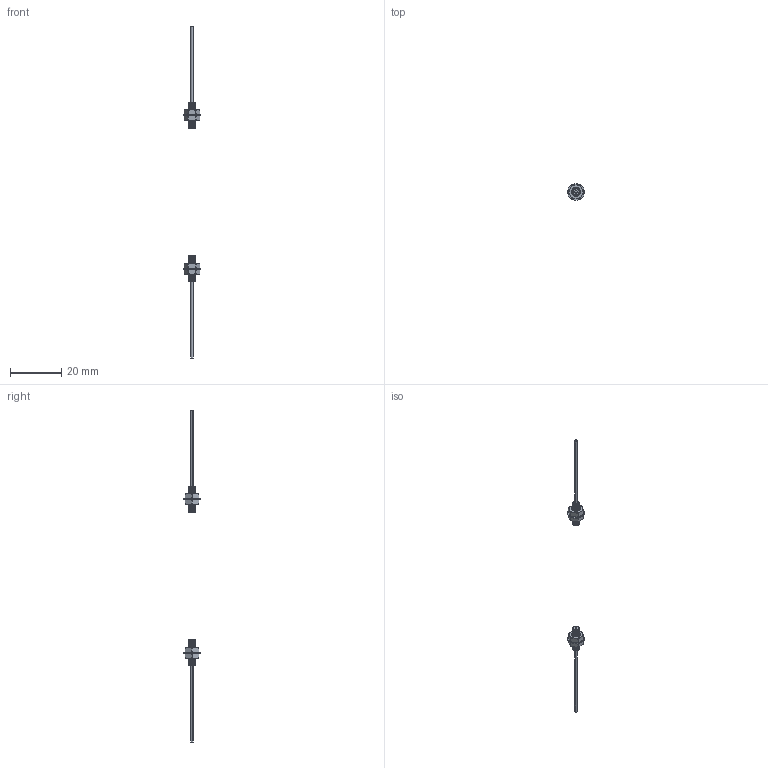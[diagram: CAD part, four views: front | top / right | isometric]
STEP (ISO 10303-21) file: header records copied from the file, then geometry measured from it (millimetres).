
FILE_DESCRIPTION (( 'STEP AP203' ), '1' );
FILE_NAME ('FQ-79.STEP', '2020-11-03T08:45:44', ( '' ), ( '' ), 'SwSTEP 2.0', 'SolidWorks 2020', '' );
FILE_SCHEMA (( 'CONFIG_CONTROL_DESIGN' ));
Length unit declared in the file: millimetre
Products named in the file (7): FQ-79_T; FQ-79; FQ-79_R; M3蹟譫x2x2x2; M3菜え____
Assembly tree (10 placements, depth 3):
  FQ-79
    FQ-79_T
      FQ-79_T
      M3蹟譫x2x2x2  x2
      M3菜え____
    FQ-79_R
      FQ-79_R
      M3蹟譫x2x2x2  x2
      M3菜え____
Bounding box: 6.5 x 6.5 x 130 mm (x, y, z)
Volume: 323.2 mm3; surface area: 969.6 mm2
Topology: 8 solids, 8 shells, 312 faces, 766 edges, 488 vertices
Faces by surface type: cylinder 148, plane 58, torus 56, cone 32, bspline 18
Entity records: 13193 total; most frequent: CARTESIAN_POINT 8198, ORIENTED_EDGE 974, DIRECTION 785, EDGE_CURVE 487, AXIS2_PLACEMENT_3D 321, VERTEX_POINT 318, EDGE_LOOP 217, ADVANCED_FACE 195
